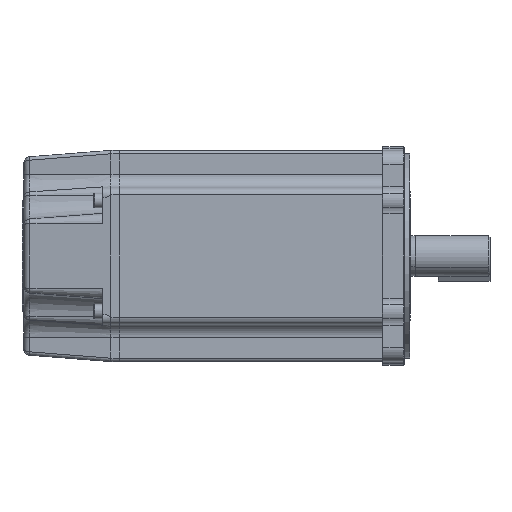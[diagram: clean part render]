
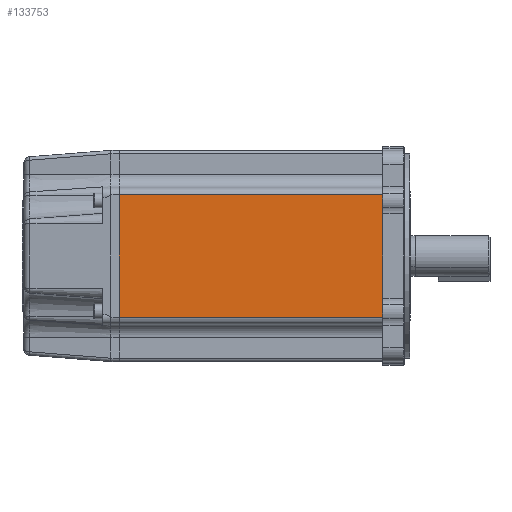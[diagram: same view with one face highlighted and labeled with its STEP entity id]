
A CAD part, front view. The second image highlights one B-rep face of the part: STEP entity #133753.
In plain terms, the highlighted planar face has unit normal (0, -1, 0).
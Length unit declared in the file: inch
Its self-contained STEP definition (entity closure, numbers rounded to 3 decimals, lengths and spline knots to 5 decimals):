
#3597 = VECTOR ( 'NONE', #120627, 39.37008 ) ;
#5164 = CARTESIAN_POINT ( 'NONE',  ( -5.22, -1.935, -1.935 ) ) ;
#5201 = PLANE ( 'NONE',  #116429 ) ;
#5311 = VERTEX_POINT ( 'NONE', #144145 ) ;
#17469 = CARTESIAN_POINT ( 'NONE',  ( -5.22, -1.935, -1.12 ) ) ;
#17703 = DIRECTION ( 'NONE',  ( 0., 0., 1. ) ) ;
#18568 = CARTESIAN_POINT ( 'NONE',  ( -0.4, -1.935, -1.935 ) ) ;
#30141 = DIRECTION ( 'NONE',  ( 0., 0., 1. ) ) ;
#31040 = DIRECTION ( 'NONE',  ( 0., 0., 1. ) ) ;
#31803 = LINE ( 'NONE', #18568, #126811 ) ;
#44282 = VERTEX_POINT ( 'NONE', #97626 ) ;
#50503 = LINE ( 'NONE', #118710, #149242 ) ;
#57022 = DIRECTION ( 'NONE',  ( 1., 0., 0. ) ) ;
#64953 = EDGE_CURVE ( 'NONE', #123726, #44282, #50503, .T. ) ;
#69663 = LINE ( 'NONE', #108160, #3597 ) ;
#71552 = EDGE_CURVE ( 'NONE', #124569, #5311, #69663, .T. ) ;
#86744 = ORIENTED_EDGE ( 'NONE', *, *, #71552, .T. ) ;
#91975 = DIRECTION ( 'NONE',  ( 0., 1., 0. ) ) ;
#97626 = CARTESIAN_POINT ( 'NONE',  ( -0.4, -1.935, -1.12 ) ) ;
#98359 = VECTOR ( 'NONE', #30141, 39.37008 ) ;
#103926 = CARTESIAN_POINT ( 'NONE',  ( -5.22, -1.935, -1.935 ) ) ;
#104713 = FACE_OUTER_BOUND ( 'NONE', #122752, .T. ) ;
#108160 = CARTESIAN_POINT ( 'NONE',  ( -5.22, -1.935, 1.12 ) ) ;
#108212 = ORIENTED_EDGE ( 'NONE', *, *, #64953, .T. ) ;
#116429 = AXIS2_PLACEMENT_3D ( 'NONE', #103926, #91975, #17703 ) ;
#118710 = CARTESIAN_POINT ( 'NONE',  ( -0.4, -1.935, -1.12 ) ) ;
#120627 = DIRECTION ( 'NONE',  ( -1., 0., 0. ) ) ;
#121851 = EDGE_CURVE ( 'NONE', #44282, #124569, #31803, .T. ) ;
#122752 = EDGE_LOOP ( 'NONE', ( #156736, #86744, #132131, #108212 ) ) ;
#123726 = VERTEX_POINT ( 'NONE', #17469 ) ;
#124569 = VERTEX_POINT ( 'NONE', #137158 ) ;
#126811 = VECTOR ( 'NONE', #31040, 39.37008 ) ;
#131322 = LINE ( 'NONE', #5164, #98359 ) ;
#132131 = ORIENTED_EDGE ( 'NONE', *, *, #143439, .F. ) ;
#133753 = ADVANCED_FACE ( 'NONE', ( #104713 ), #5201, .F. ) ;
#137158 = CARTESIAN_POINT ( 'NONE',  ( -0.4, -1.935, 1.12 ) ) ;
#143439 = EDGE_CURVE ( 'NONE', #123726, #5311, #131322, .T. ) ;
#144145 = CARTESIAN_POINT ( 'NONE',  ( -5.22, -1.935, 1.12 ) ) ;
#149242 = VECTOR ( 'NONE', #57022, 39.37008 ) ;
#156736 = ORIENTED_EDGE ( 'NONE', *, *, #121851, .T. ) ;
